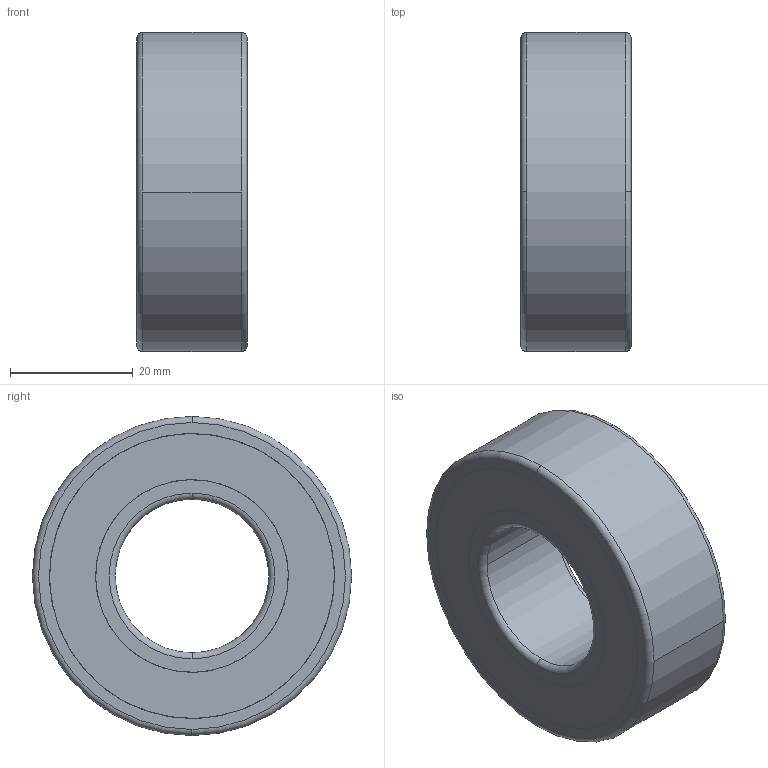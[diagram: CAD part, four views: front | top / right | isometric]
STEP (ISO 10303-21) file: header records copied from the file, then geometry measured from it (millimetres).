
FILE_DESCRIPTION (( 'STEP AP214' ), '1' );
FILE_NAME ('4.0006 Laakeri 2205 2RSETN9 ISB.STEP', '2025-09-23T09:15:50', ( '' ), ( '' ), 'SwSTEP 2.0', 'SolidWorks 2025', '' );
FILE_SCHEMA (( 'AUTOMOTIVE_DESIGN' ));
Length unit declared in the file: millimetre
Products named in the file (1): 4.0006 Laakeri 2205 2RSETN9 ISB
Bounding box: 18 x 52 x 52 mm (x, y, z)
Volume: 19041.2 mm3; surface area: 16367.7 mm2
Topology: 12 solids, 12 shells, 72 faces, 192 edges, 130 vertices
Faces by surface type: cylinder 26, sphere 18, torus 16, plane 12
Entity records: 2912 total; most frequent: DIRECTION 412, CARTESIAN_POINT 321, ORIENTED_EDGE 292, AXIS2_PLACEMENT_3D 193, EDGE_CURVE 146, CIRCLE 120, VERTEX_POINT 102, UNCERTAINTY_MEASURE_WITH_UNIT 85
